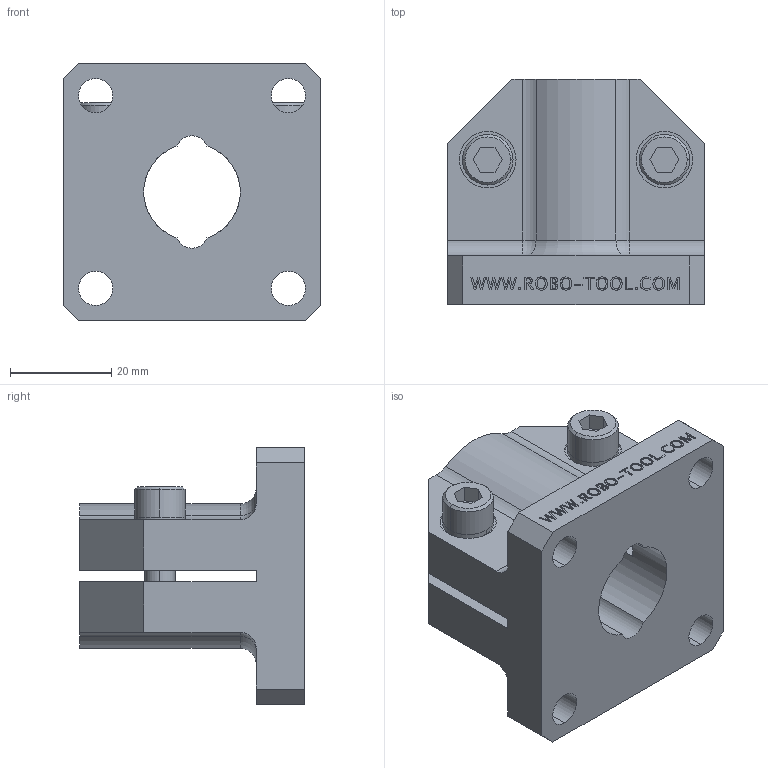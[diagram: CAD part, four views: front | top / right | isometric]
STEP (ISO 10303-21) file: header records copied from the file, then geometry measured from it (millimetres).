
FILE_DESCRIPTION (( 'STEP AP214' ), '1' );
FILE_NAME ('RTI-FCV-75-S.STEP', '2013-10-22T14:04:05', ( 'user' ), ( '' ), 'SwSTEP 2.0', 'SolidWorks 2009', '' );
FILE_SCHEMA (( 'AUTOMOTIVE_DESIGN' ));
Length unit declared in the file: inch
Products named in the file (4): RTI-FCV-75-S; M6 WASHER; M6 S.H.C.S._M6x16mm
Assembly tree (5 placements, depth 2):
  RTI-FCV-75-S
    M6 WASHER  x2
    M6 S.H.C.S._M6x16mm  x2
    RTI-FCV-75-S
Bounding box: 50.8 x 44.45 x 50.8 mm (x, y, z)
Volume: 47003.1 mm3; surface area: 17968.8 mm2
Topology: 5 solids, 5 shells, 423 faces, 1093 edges, 723 vertices
Faces by surface type: plane 261, bspline 95, cylinder 52, cone 8, torus 7
Entity records: 21704 total; most frequent: CARTESIAN_POINT 8364, ORIENTED_EDGE 2086, DIRECTION 1585, EDGE_CURVE 1043, LINE 745, VECTOR 745, VERTEX_POINT 691, EDGE_LOOP 460
